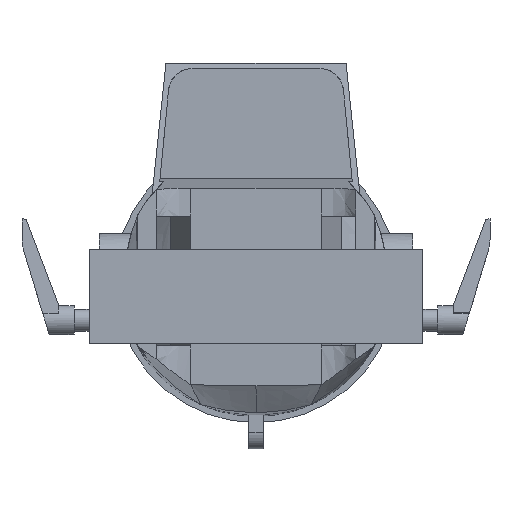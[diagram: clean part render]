
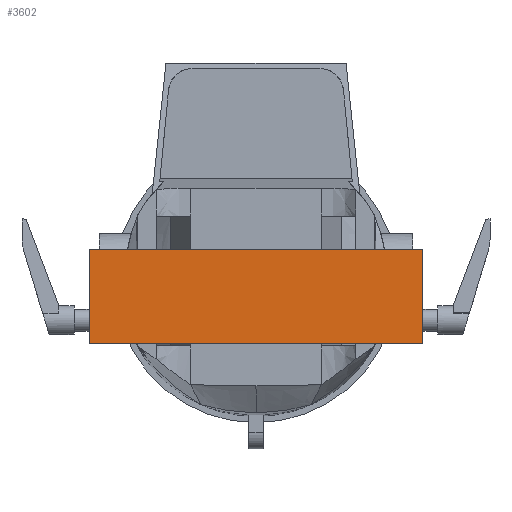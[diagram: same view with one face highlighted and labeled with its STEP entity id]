
A CAD part, front view. The second image highlights one B-rep face of the part: STEP entity #3602.
In plain terms, the highlighted planar face has unit normal (0, -1, 0) as drawn and (0, 0, -1) by its records, which use the part's own axes.
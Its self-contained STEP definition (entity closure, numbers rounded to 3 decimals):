
#3388=DIRECTION('',(-1.,0.,0.));
#3389=VECTOR('',#3388,212.);
#3390=CARTESIAN_POINT('',(106.,60.,-346.));
#3391=LINE('',#3390,#3389);
#3392=DIRECTION('',(0.,1.,0.));
#3393=VECTOR('',#3392,60.);
#3394=CARTESIAN_POINT('',(-106.,0.,-346.));
#3395=LINE('',#3394,#3393);
#3396=DIRECTION('',(1.,0.,0.));
#3397=VECTOR('',#3396,212.);
#3398=CARTESIAN_POINT('',(-106.,0.,-346.));
#3399=LINE('',#3398,#3397);
#3400=DIRECTION('',(0.,1.,0.));
#3401=VECTOR('',#3400,60.);
#3402=CARTESIAN_POINT('',(106.,0.,-346.));
#3403=LINE('',#3402,#3401);
#3522=CARTESIAN_POINT('',(106.,0.,-346.));
#3523=VERTEX_POINT('',#3522);
#3530=CARTESIAN_POINT('',(106.,60.,-346.));
#3531=VERTEX_POINT('',#3530);
#3538=CARTESIAN_POINT('',(-106.,0.,-346.));
#3539=VERTEX_POINT('',#3538);
#3546=CARTESIAN_POINT('',(-106.,60.,-346.));
#3547=VERTEX_POINT('',#3546);
#3588=CARTESIAN_POINT('',(106.,0.,-346.));
#3589=DIRECTION('',(0.,0.,-1.));
#3590=DIRECTION('',(-1.,0.,0.));
#3591=AXIS2_PLACEMENT_3D('',#3588,#3589,#3590);
#3592=PLANE('',#3591);
#3594=ORIENTED_EDGE('',*,*,#3593,.T.);
#3596=ORIENTED_EDGE('',*,*,#3595,.F.);
#3597=ORIENTED_EDGE('',*,*,#3569,.T.);
#3599=ORIENTED_EDGE('',*,*,#3598,.T.);
#3600=EDGE_LOOP('',(#3594,#3596,#3597,#3599));
#3601=FACE_OUTER_BOUND('',#3600,.F.);
#3602=ADVANCED_FACE('',(#3601),#3592,.T.);
#3569=EDGE_CURVE('',#3539,#3523,#3399,.T.);
#3593=EDGE_CURVE('',#3531,#3547,#3391,.T.);
#3595=EDGE_CURVE('',#3539,#3547,#3395,.T.);
#3598=EDGE_CURVE('',#3523,#3531,#3403,.T.);
